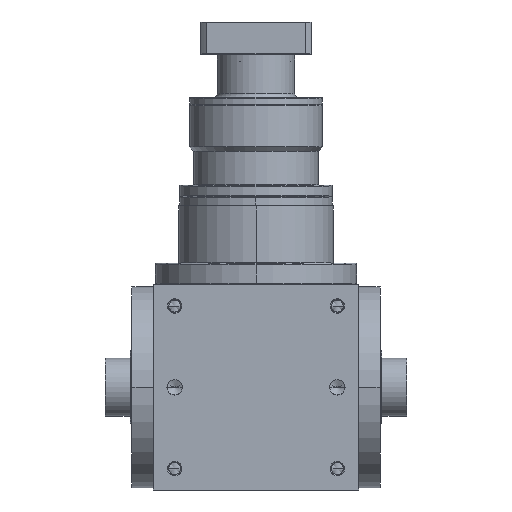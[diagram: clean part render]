
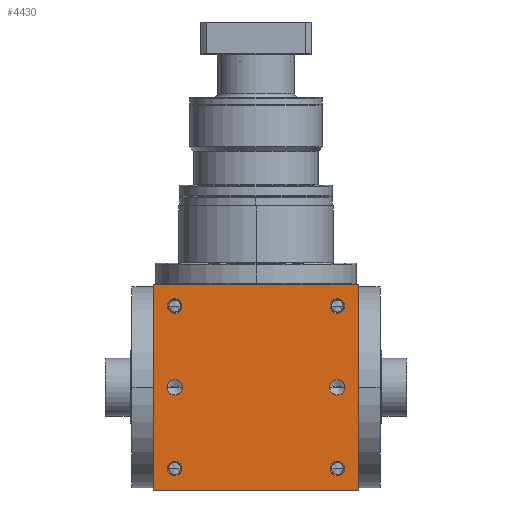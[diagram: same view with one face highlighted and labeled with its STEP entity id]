
A CAD part, front view. The second image highlights one B-rep face of the part: STEP entity #4430.
In plain terms, the highlighted planar face has unit normal (0, -1, 0).
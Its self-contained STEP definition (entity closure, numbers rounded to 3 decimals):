
#5=DIRECTION('',(1.,0.,0.));
#6=VECTOR('',#5,240.);
#7=CARTESIAN_POINT('',(-120.,-120.,-120.));
#8=LINE('',#7,#6);
#155=DIRECTION('',(0.,0.,1.));
#156=VECTOR('',#155,240.);
#157=CARTESIAN_POINT('',(120.,-120.,-120.));
#158=LINE('',#157,#156);
#209=DIRECTION('',(0.,0.,1.));
#210=VECTOR('',#209,240.);
#211=CARTESIAN_POINT('',(-120.,-120.,-120.));
#212=LINE('',#211,#210);
#213=CARTESIAN_POINT('',(95.,-120.,95.));
#214=DIRECTION('',(0.,1.,0.));
#215=DIRECTION('',(-1.,0.,0.));
#216=AXIS2_PLACEMENT_3D('',#213,#214,#215);
#218=CARTESIAN_POINT('',(95.,-120.,95.));
#219=DIRECTION('',(0.,1.,0.));
#220=DIRECTION('',(1.,0.,0.));
#221=AXIS2_PLACEMENT_3D('',#218,#219,#220);
#223=CARTESIAN_POINT('',(-95.,-120.,95.));
#224=DIRECTION('',(0.,1.,0.));
#225=DIRECTION('',(-1.,0.,0.));
#226=AXIS2_PLACEMENT_3D('',#223,#224,#225);
#228=CARTESIAN_POINT('',(-95.,-120.,95.));
#229=DIRECTION('',(0.,1.,0.));
#230=DIRECTION('',(1.,0.,0.));
#231=AXIS2_PLACEMENT_3D('',#228,#229,#230);
#233=CARTESIAN_POINT('',(95.,-120.,-95.));
#234=DIRECTION('',(0.,1.,0.));
#235=DIRECTION('',(-1.,0.,0.));
#236=AXIS2_PLACEMENT_3D('',#233,#234,#235);
#238=CARTESIAN_POINT('',(95.,-120.,-95.));
#239=DIRECTION('',(0.,1.,0.));
#240=DIRECTION('',(1.,0.,0.));
#241=AXIS2_PLACEMENT_3D('',#238,#239,#240);
#243=CARTESIAN_POINT('',(-95.,-120.,-95.));
#244=DIRECTION('',(0.,1.,0.));
#245=DIRECTION('',(-1.,0.,0.));
#246=AXIS2_PLACEMENT_3D('',#243,#244,#245);
#248=CARTESIAN_POINT('',(-95.,-120.,-95.));
#249=DIRECTION('',(0.,1.,0.));
#250=DIRECTION('',(1.,0.,0.));
#251=AXIS2_PLACEMENT_3D('',#248,#249,#250);
#253=CARTESIAN_POINT('',(-95.,-120.,0.));
#254=DIRECTION('',(0.,1.,0.));
#255=DIRECTION('',(1.,0.,0.));
#256=AXIS2_PLACEMENT_3D('',#253,#254,#255);
#258=CARTESIAN_POINT('',(-95.,-120.,0.));
#259=DIRECTION('',(0.,1.,0.));
#260=DIRECTION('',(-1.,0.,0.));
#261=AXIS2_PLACEMENT_3D('',#258,#259,#260);
#263=CARTESIAN_POINT('',(95.,-120.,0.));
#264=DIRECTION('',(0.,1.,0.));
#265=DIRECTION('',(1.,0.,0.));
#266=AXIS2_PLACEMENT_3D('',#263,#264,#265);
#268=CARTESIAN_POINT('',(95.,-120.,0.));
#269=DIRECTION('',(0.,1.,0.));
#270=DIRECTION('',(-1.,0.,0.));
#271=AXIS2_PLACEMENT_3D('',#268,#269,#270);
#285=DIRECTION('',(1.,0.,0.));
#286=VECTOR('',#285,240.);
#287=CARTESIAN_POINT('',(-120.,-120.,120.));
#288=LINE('',#287,#286);
#3564=CARTESIAN_POINT('',(-120.,-120.,-120.));
#3566=VERTEX_POINT('',#3564);
#3567=CARTESIAN_POINT('',(120.,-120.,-120.));
#3568=VERTEX_POINT('',#3567);
#3572=CARTESIAN_POINT('',(-120.,-120.,120.));
#3574=VERTEX_POINT('',#3572);
#3575=CARTESIAN_POINT('',(120.,-120.,120.));
#3576=VERTEX_POINT('',#3575);
#3731=CARTESIAN_POINT('',(86.6,-120.,95.));
#3732=CARTESIAN_POINT('',(103.4,-120.,95.));
#3733=VERTEX_POINT('',#3731);
#3734=VERTEX_POINT('',#3732);
#3739=CARTESIAN_POINT('',(-103.4,-120.,95.));
#3740=CARTESIAN_POINT('',(-86.6,-120.,95.));
#3741=VERTEX_POINT('',#3739);
#3742=VERTEX_POINT('',#3740);
#3747=CARTESIAN_POINT('',(86.6,-120.,-95.));
#3748=CARTESIAN_POINT('',(103.4,-120.,-95.));
#3749=VERTEX_POINT('',#3747);
#3750=VERTEX_POINT('',#3748);
#3755=CARTESIAN_POINT('',(-103.4,-120.,-95.));
#3756=CARTESIAN_POINT('',(-86.6,-120.,-95.));
#3757=VERTEX_POINT('',#3755);
#3758=VERTEX_POINT('',#3756);
#4079=CARTESIAN_POINT('',(-85.95,-120.,
0.));
#4080=CARTESIAN_POINT('',(-104.05,-120.,0.));
#4081=VERTEX_POINT('',#4079);
#4082=VERTEX_POINT('',#4080);
#4087=CARTESIAN_POINT('',(104.05,-120.,0.));
#4088=CARTESIAN_POINT('',(85.95,-120.,0.));
#4089=VERTEX_POINT('',#4087);
#4090=VERTEX_POINT('',#4088);
#4382=CARTESIAN_POINT('',(-120.,-120.,-120.));
#4383=DIRECTION('',(0.,-1.,0.));
#4384=DIRECTION('',(1.,0.,0.));
#4385=AXIS2_PLACEMENT_3D('',#4382,#4383,#4384);
#4386=PLANE('',#4385);
#4387=ORIENTED_EDGE('',*,*,#4222,.F.);
#4388=ORIENTED_EDGE('',*,*,#4265,.T.);
#4390=ORIENTED_EDGE('',*,*,#4389,.T.);
#4391=ORIENTED_EDGE('',*,*,#4344,.F.);
#4392=EDGE_LOOP('',(#4387,#4388,#4390,#4391));
#4393=FACE_OUTER_BOUND('',#4392,.F.);
#4395=ORIENTED_EDGE('',*,*,#4394,.F.);
#4397=ORIENTED_EDGE('',*,*,#4396,.F.);
#4398=EDGE_LOOP('',(#4395,#4397));
#4399=FACE_BOUND('',#4398,.F.);
#4401=ORIENTED_EDGE('',*,*,#4400,.F.);
#4403=ORIENTED_EDGE('',*,*,#4402,.F.);
#4404=EDGE_LOOP('',(#4401,#4403));
#4405=FACE_BOUND('',#4404,.F.);
#4407=ORIENTED_EDGE('',*,*,#4406,.F.);
#4409=ORIENTED_EDGE('',*,*,#4408,.F.);
#4410=EDGE_LOOP('',(#4407,#4409));
#4411=FACE_BOUND('',#4410,.F.);
#4413=ORIENTED_EDGE('',*,*,#4412,.F.);
#4415=ORIENTED_EDGE('',*,*,#4414,.F.);
#4416=EDGE_LOOP('',(#4413,#4415));
#4417=FACE_BOUND('',#4416,.F.);
#4419=ORIENTED_EDGE('',*,*,#4418,.F.);
#4421=ORIENTED_EDGE('',*,*,#4420,.F.);
#4422=EDGE_LOOP('',(#4419,#4421));
#4423=FACE_BOUND('',#4422,.F.);
#4425=ORIENTED_EDGE('',*,*,#4424,.F.);
#4427=ORIENTED_EDGE('',*,*,#4426,.F.);
#4428=EDGE_LOOP('',(#4425,#4427));
#4429=FACE_BOUND('',#4428,.F.);
#4430=ADVANCED_FACE('',(#4393,#4399,#4405,#4411,#4417,#4423,#4429),#4386,.T.);
#217=CIRCLE('',#216,8.4);
#222=CIRCLE('',#221,8.4);
#227=CIRCLE('',#226,8.4);
#232=CIRCLE('',#231,8.4);
#237=CIRCLE('',#236,8.4);
#242=CIRCLE('',#241,8.4);
#247=CIRCLE('',#246,8.4);
#252=CIRCLE('',#251,8.4);
#257=CIRCLE('',#256,9.05);
#262=CIRCLE('',#261,9.05);
#267=CIRCLE('',#266,9.05);
#272=CIRCLE('',#271,9.05);
#4222=EDGE_CURVE('',#3566,#3568,#8,.T.);
#4265=EDGE_CURVE('',#3566,#3574,#212,.T.);
#4344=EDGE_CURVE('',#3568,#3576,#158,.T.);
#4389=EDGE_CURVE('',#3574,#3576,#288,.T.);
#4394=EDGE_CURVE('',#3733,#3734,#217,.T.);
#4396=EDGE_CURVE('',#3734,#3733,#222,.T.);
#4400=EDGE_CURVE('',#3741,#3742,#227,.T.);
#4402=EDGE_CURVE('',#3742,#3741,#232,.T.);
#4406=EDGE_CURVE('',#3749,#3750,#237,.T.);
#4408=EDGE_CURVE('',#3750,#3749,#242,.T.);
#4412=EDGE_CURVE('',#3757,#3758,#247,.T.);
#4414=EDGE_CURVE('',#3758,#3757,#252,.T.);
#4418=EDGE_CURVE('',#4081,#4082,#257,.T.);
#4420=EDGE_CURVE('',#4082,#4081,#262,.T.);
#4424=EDGE_CURVE('',#4089,#4090,#267,.T.);
#4426=EDGE_CURVE('',#4090,#4089,#272,.T.);
